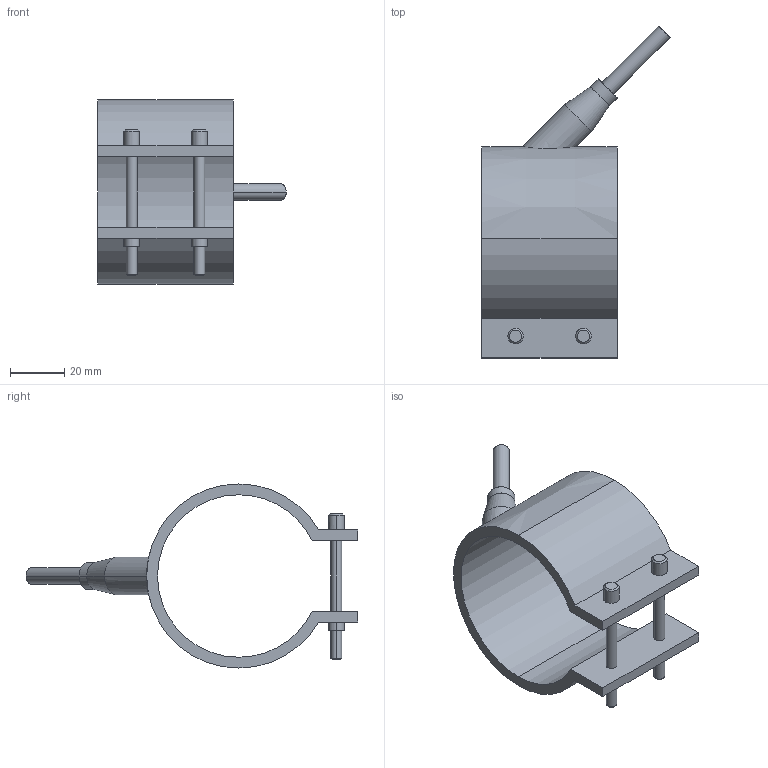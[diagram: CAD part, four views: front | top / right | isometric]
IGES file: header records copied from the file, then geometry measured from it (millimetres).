
Start section: START RECORD GO HERE.
Global section: file name: 29060050.igs; native system: DASSAULT SYSTEMES CATIA V5 R20 - www.3ds.com; preprocessor: CATIA Version 5 Release 20 ; author: Utente; organization: NB04-ASUS; date: 20210327.105259; units: millimetre
Bounding box: 69.55 x 122.55 x 68 mm (x, y, z)
Surface area: 24984.2 mm2 (no closed solid volume)
Topology: 0 solids, 0 shells, 54 faces, 252 edges, 252 vertices
Faces by surface type: revolution 38, plane 16
